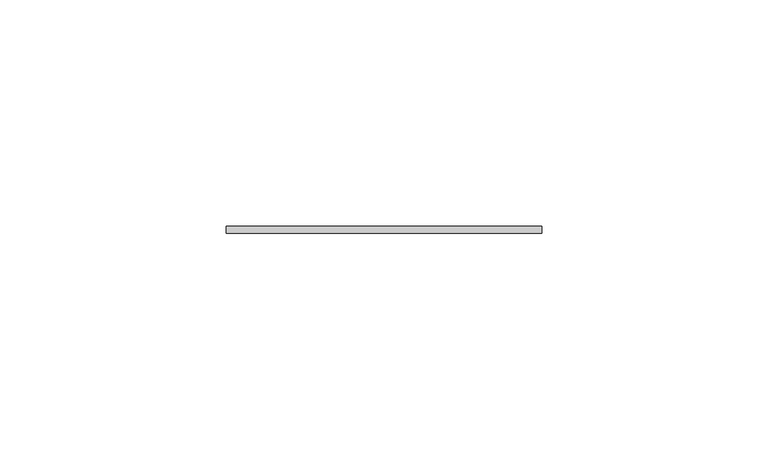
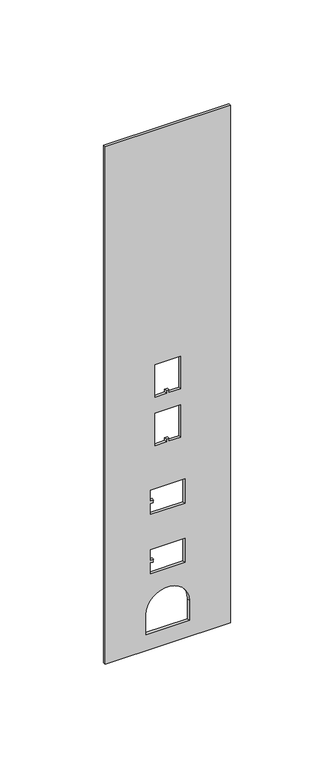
"""IFC4 building model written with IfcOpenShell, lengths in millimetres: proxy geometry, Accessory-Wiremold-Data_And_AV_Add_on_Cover_30_Series_Poles : 30TC-CVR."""

import ifcopenshell
import ifcopenshell.guid

model = None  # the IFC model being written
_history = None  # IfcOwnerHistory: only IFC2X3 demands one
_inside = {}  # id of a spatial element -> (the spatial element, [elements in it])
_under = {}  # id of a project, library or spatial element -> (it, [spatial elements below it])
_declared = {}  # id of a project -> (the project, [libraries it declares])
_typed = {}  # id of a type object -> (the type object, [elements of that type])
_made_of = {}  # id of a material, layer set ... -> (it, [elements and type objects made of it])


def new_model(schema):
    """Start an empty IFC model of exactly this schema.

    Asked for "IFC4X3", IfcOpenShell would pick the latest addendum, in which some entities
    have other attributes; the version numbers below select the first issue.
    IFC2X3 requires an IfcOwnerHistory on every rooted entity: one is made here for all.
    """
    global model, _history
    if schema == "IFC4X3":
        model = ifcopenshell.file(schema_version=(4, 3, 0, 0))
    else:
        model = ifcopenshell.file(schema=schema)
    _inside.clear()
    _under.clear()
    _declared.clear()
    _typed.clear()
    _made_of.clear()
    _history = None
    if model.schema == "IFC2X3":
        org = make("IfcOrganization", Name="unknown")
        user = make(
            "IfcPersonAndOrganization",
            ThePerson=make("IfcPerson", FamilyName="unknown"),
            TheOrganization=org,
        )
        app = make(
            "IfcApplication",
            ApplicationDeveloper=org,
            Version="unknown",
            ApplicationFullName="unknown",
            ApplicationIdentifier="unknown",
        )
        _history = make(
            "IfcOwnerHistory",
            OwningUser=user,
            OwningApplication=app,
            ChangeAction="ADDED",
            CreationDate=0,
        )
    return model


def make(cls, **values):
    """One entity of the class cls with the attributes given. An attribute that is None is left unset."""
    return model.create_entity(
        cls, **{name: value for name, value in values.items() if value is not None}
    )


def rooted(cls, **values):
    """An entity with a GlobalId (a new one), such as an element, a storey or a relation."""
    return make(cls, GlobalId=ifcopenshell.guid.new(), OwnerHistory=_history, **values)


def si_unit(unit_type, name, prefix=None):
    """IfcSIUnit, for example si_unit("LENGTHUNIT", "METRE", prefix="MILLI")."""
    return make("IfcSIUnit", UnitType=unit_type, Prefix=prefix, Name=name)


def assignment(units):
    """IfcUnitAssignment: the units of a project."""
    return None if units is None else make("IfcUnitAssignment", Units=units)


def point(xyz):
    """IfcCartesianPoint."""
    return None if xyz is None else make("IfcCartesianPoint", Coordinates=xyz)


def direction(xyz):
    """IfcDirection."""
    return None if xyz is None else make("IfcDirection", DirectionRatios=xyz)


def frame(location, z_axis=None, x_axis=None):
    """IfcAxis2Placement3D, a coordinate frame: its origin and axes. An axis left out is left unset."""
    return make(
        "IfcAxis2Placement3D",
        Location=point(location),
        Axis=direction(z_axis),
        RefDirection=direction(x_axis),
    )


def frame_2d(location, x_axis=None):
    """IfcAxis2Placement2D, a coordinate frame in the plane: its origin and x axis."""
    return make(
        "IfcAxis2Placement2D", Location=point(location), RefDirection=direction(x_axis)
    )


def origin():
    """The frame at (0, 0, 0) with its axes left unset."""
    return frame((0.0, 0.0, 0.0))


def place(relative_to, where):
    """IfcLocalPlacement: puts the frame where relative to a parent placement (None: the world)."""
    return make(
        "IfcLocalPlacement", PlacementRelTo=relative_to, RelativePlacement=where
    )


def context(
    kind, dimensions, precision=None, world=None, true_north=None, identifier=None
):
    """IfcGeometricRepresentationContext, for example the 3D "Model" context."""
    return make(
        "IfcGeometricRepresentationContext",
        ContextIdentifier=identifier,
        ContextType=kind,
        CoordinateSpaceDimension=dimensions,
        Precision=precision,
        WorldCoordinateSystem=world,
        TrueNorth=true_north,
    )


def project(units=None, contexts=None):
    """IfcProject with its units and contexts."""
    return rooted(
        "IfcProject",
        Name="project",
        RepresentationContexts=contexts,
        UnitsInContext=assignment(units),
    )


def spatial(cls, under=None, at=None, **own):
    """A site, building, storey or space (cls), placed at a placement, below another one or the project."""
    s = rooted(cls, ObjectPlacement=at, **own)
    if under is not None:
        _under.setdefault(under.id(), (under, []))[1].append(s)
    return s


def polyline(points):
    """IfcPolyline through the points."""
    return make("IfcPolyline", Points=[point(p) for p in points])


def circle_curve(where, radius):
    """IfcCircle in the frame where."""
    return make("IfcCircle", Position=where, Radius=radius)


def trimmed(basis, trim1, trim2, sense, master):
    """IfcTrimmedCurve: the piece of a basis curve between two trims."""
    return make(
        "IfcTrimmedCurve",
        BasisCurve=basis,
        Trim1=trim1,
        Trim2=trim2,
        SenseAgreement=sense,
        MasterRepresentation=master,
    )


def segment(curve, same_sense, transition):
    """IfcCompositeCurveSegment."""
    return make(
        "IfcCompositeCurveSegment",
        Transition=transition,
        SameSense=same_sense,
        ParentCurve=curve,
    )


def composite_curve(segments, self_intersect=None):
    """IfcCompositeCurve: segments joined end to end."""
    return make("IfcCompositeCurve", Segments=segments, SelfIntersect=self_intersect)


def outline(outer, holes=None, kind="AREA"):
    """IfcArbitraryClosedProfileDef: a profile drawn as a closed curve; with holes, ...WithVoids."""
    if holes is None:
        return make("IfcArbitraryClosedProfileDef", ProfileType=kind, OuterCurve=outer)
    return make(
        "IfcArbitraryProfileDefWithVoids",
        ProfileType=kind,
        OuterCurve=outer,
        InnerCurves=holes,
    )


def extrude(swept, where, along, depth):
    """IfcExtrudedAreaSolid: the profile swept, set in the frame where, extruded along a direction by depth."""
    return make(
        "IfcExtrudedAreaSolid",
        SweptArea=swept,
        Position=where,
        ExtrudedDirection=direction(along),
        Depth=depth,
    )


def shape(context_of_items, identifier, shape_type, items):
    """IfcShapeRepresentation: the items that make up one representation, for example the "Body"."""
    return make(
        "IfcShapeRepresentation",
        ContextOfItems=context_of_items,
        RepresentationIdentifier=identifier,
        RepresentationType=shape_type,
        Items=items,
    )


def source(mapping_origin, context_of_items, identifier, shape_type, items):
    """IfcRepresentationMap: a shape defined once, which mapped items show again and again."""
    return make(
        "IfcRepresentationMap",
        MappingOrigin=mapping_origin,
        MappedRepresentation=shape(context_of_items, identifier, shape_type, items),
    )


def transform(
    local_origin,
    x_axis=None,
    y_axis=None,
    z_axis=None,
    scale=None,
    scale2=None,
    scale3=None,
    uniform=True,
):
    """IfcCartesianTransformationOperator3D, or its non-uniform kind. x_axis, y_axis, z_axis: its Axis1, 2, 3."""
    if uniform:
        return make(
            "IfcCartesianTransformationOperator3D",
            Axis1=direction(x_axis),
            Axis2=direction(y_axis),
            LocalOrigin=point(local_origin),
            Scale=scale,
            Axis3=direction(z_axis),
        )
    return make(
        "IfcCartesianTransformationOperator3DnonUniform",
        Axis1=direction(x_axis),
        Axis2=direction(y_axis),
        LocalOrigin=point(local_origin),
        Scale=scale,
        Axis3=direction(z_axis),
        Scale2=scale2,
        Scale3=scale3,
    )


def mapped(mapping_source, mapping_target):
    """IfcMappedItem: shows the shape of a source again, moved by a transform."""
    return make(
        "IfcMappedItem", MappingSource=mapping_source, MappingTarget=mapping_target
    )


def made_of(thing, what):
    """Note that an element or type object is made of a material, layer set ...; save() writes the relation."""
    if what is not None:
        _made_of.setdefault(what.id(), (what, []))[1].append(thing)
    return thing


def element(
    cls,
    number,
    at=None,
    inside=None,
    cuts=None,
    type_object=None,
    material=None,
    context=None,
    identifier="Body",
    shape_type=None,
    held_by="IfcProductDefinitionShape",
    body=None,
    shapes=None,
    **own,
):
    """One element of the class cls, such as IfcWall. Its Tag is "e" and its number.

    at: its placement. inside: the storey or other place that contains it. cuts: it is an
    opening in that element (IfcRelVoidsElement). A single representation is given by context,
    identifier, shape_type and body (its items); several are given by shapes. held_by: the class
    of the entity that holds the representations. save() writes the other relations.
    """
    e = rooted(cls, Tag="e%d" % number, ObjectPlacement=at, **own)
    if body is not None:
        shapes = [shape(context, identifier, shape_type, body)]
    if shapes is not None:
        e.Representation = make(held_by, Representations=shapes)
    if inside is not None:
        _inside.setdefault(inside.id(), (inside, []))[1].append(e)
    if cuts is not None:
        rooted(
            "IfcRelVoidsElement", RelatingBuildingElement=cuts, RelatedOpeningElement=e
        )
    if type_object is not None:
        _typed.setdefault(type_object.id(), (type_object, []))[1].append(e)
    return made_of(e, material)


def aggregate(whole, parts):
    """IfcRelAggregates: a whole, such as a stair, and the parts it consists of."""
    return rooted("IfcRelAggregates", RelatingObject=whole, RelatedObjects=parts)


def save(model, path):
    """Write the relations noted so far, then the file.

    IfcRelAggregates (storeys below a building ...), IfcRelContainedInSpatialStructure (elements
    in a storey), IfcRelDefinesByType, IfcRelAssociatesMaterial and IfcRelDeclares: one each for
    every whole, place, type object, material and project.
    """
    for whole, parts in _under.values():
        aggregate(whole, parts)
    for where, things in _inside.values():
        rooted(
            "IfcRelContainedInSpatialStructure",
            RelatedElements=things,
            RelatingStructure=where,
        )
    for kind, things in _typed.values():
        rooted("IfcRelDefinesByType", RelatedObjects=things, RelatingType=kind)
    for what, things in _made_of.values():
        rooted("IfcRelAssociatesMaterial", RelatedObjects=things, RelatingMaterial=what)
    for by, libraries in _declared.values():
        rooted("IfcRelDeclares", RelatingContext=by, RelatedDefinitions=libraries)
    model.write(path)


def communication_devices_bec76b34(model_context):
    return source(origin(), model_context, "Body", "SweptSolid", [
        extrude(outline(polyline([(304.8, 34.925), (304.8, -34.925), (0.0, -34.925), (0.0, 34.925), (304.8, 34.925)]), holes=[composite_curve([segment(polyline([(9.525, -12.05), (21.3100073, -12.05)]), True, "CONTINUOUS"), segment(trimmed(circle_curve(frame_2d((21.3100073, 0.0)), 12.05), [point((21.3100073, -12.05))], [point((21.3100073, 12.05))], True, "CARTESIAN"), True, "CONTINUOUS"), segment(polyline([(21.3100073, 12.05), (9.525, 12.05), (9.525, -12.05)]), True, "CONTINUOUS")], self_intersect=False), polyline([(58.7375, -9.525), (58.7375, 9.525), (44.45, 9.525), (44.45, -9.525), (50.8, -9.525), (50.8, -7.9375), (52.3875, -7.9375), (52.3875, -9.525), (58.7375, -9.525)]), polyline([(119.0625, -7.14375), (138.1125, -7.14375), (138.1125, 7.14375), (119.0625, 7.14375), (119.0625, 0.79375), (120.65, 0.79375), (120.65, -0.79375), (119.0625, -0.79375), (119.0625, -7.14375)]), polyline([(147.6375, -7.14375), (166.6875, -7.14375), (166.6875, 7.14375), (147.6375, 7.14375), (147.6375, 0.79375), (149.225, 0.79375), (149.225, -0.79375), (147.6375, -0.79375), (147.6375, -7.14375)]), polyline([(93.6625, -9.525), (93.6625, 9.525), (79.375, 9.525), (79.375, -9.525), (85.725, -9.525), (85.725, -7.9375), (87.3125, -7.9375), (87.3125, -9.525), (93.6625, -9.525)])]), frame((0.0, 0.0, 0.0), z_axis=(0.0, 1.0, 0.0), x_axis=(0.0, 0.0, 1.0)), (0.0, 0.0, 1.0), 1.5875),
    ])


if __name__ == "__main__":
    model = new_model("IFC4")
    model_context = context("Model", 3, world=origin())
    ifc_project = project(units=[si_unit("LENGTHUNIT", "METRE", prefix="MILLI")], contexts=[model_context])
    site = spatial("IfcSite", under=ifc_project)
    building = spatial("IfcBuilding", under=site)
    placement = place(None, origin())
    communication_devices_shape = communication_devices_bec76b34(model_context)
    element("IfcBuildingElementProxy", 1, Name="Accessory-Wiremold-Data_And_AV_Add_on_Cover_30_Series_Poles : 30TC-CVR", ObjectType="Accessory-Wiremold-Data_And_AV_Add_on_Cover_30_Series_Poles : 30TC-CVR", at=placement, inside=building, context=model_context, shape_type="MappedRepresentation", body=[
        mapped(communication_devices_shape, transform((0.0, 0.0, 0.0), x_axis=(1.0, 0.0, 0.0), y_axis=(0.0, 1.0, 0.0), z_axis=(0.0, 0.0, 1.0))),
    ])
    save(model, "model.ifc")
